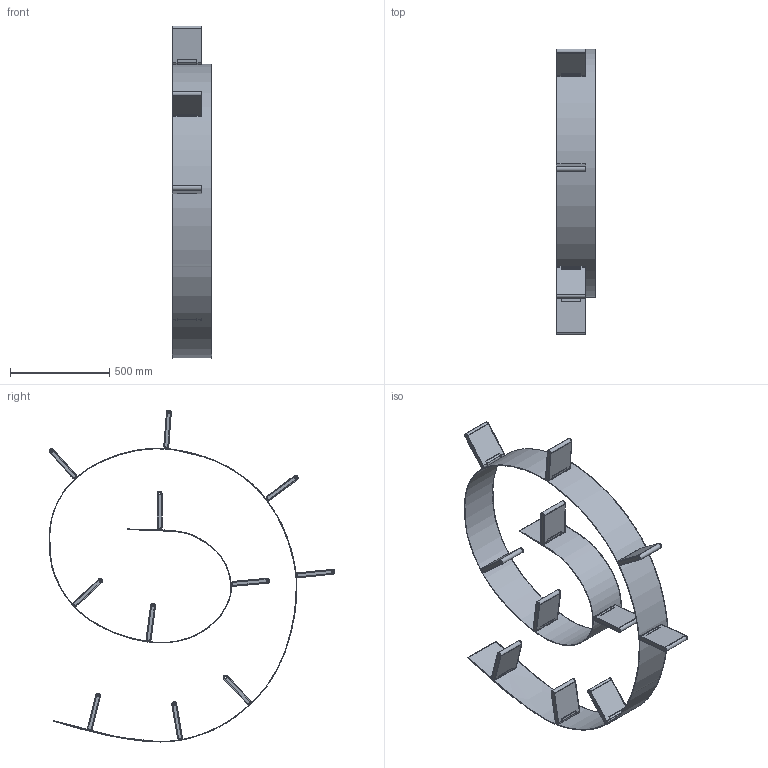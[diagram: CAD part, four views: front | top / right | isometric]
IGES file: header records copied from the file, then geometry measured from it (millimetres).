
Global section: file name: E:\Modelli 3D Kartell_3dd\Prodotti Revisione 1_3dd\ex novo_3dd\8005\Bookworm_3d_Ron Arad_Kartell.igs; native system: Rhinoceros ( Mar 10 2014 ); preprocessor: Trout Lake IGES 012 Mar 10 2014; date: 180215.203201; units: centimetre
Bounding box: 200 x 1441.77 x 1675.28 mm (x, y, z)
Surface area: 6747937.9 mm2 (no closed solid volume)
Topology: 0 solids, 0 shells, 1065 faces, 6196 edges, 6174 vertices
Faces by surface type: bspline 1065
